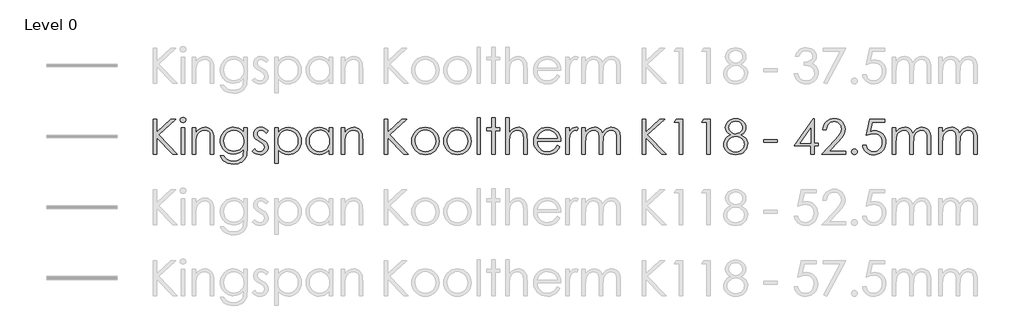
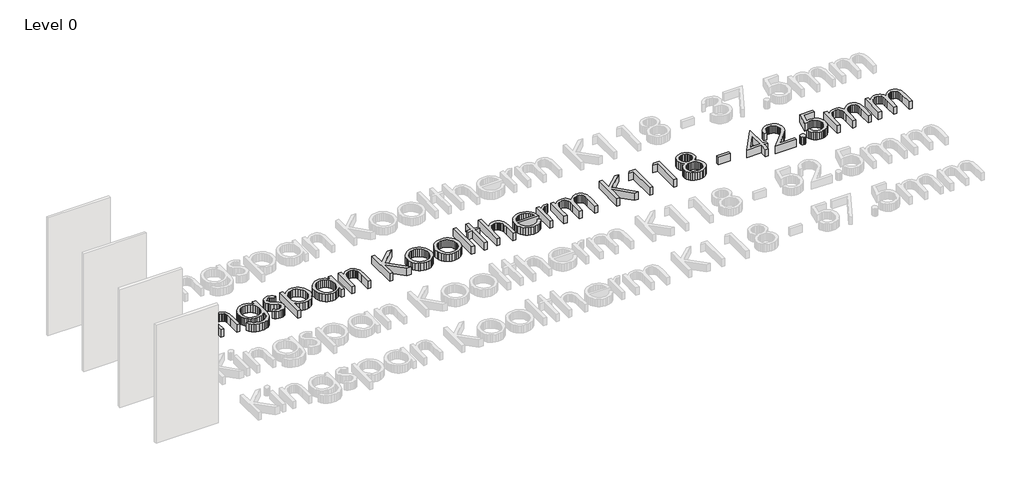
# One storey, part 7 of 8: 1 proxy.
"""IFC4 building model written with IfcOpenShell, lengths in millimetres."""

import ifcopenshell
import ifcopenshell.guid

model = None  # the IFC model being written
_history = None  # IfcOwnerHistory: only IFC2X3 demands one
_inside = {}  # id of a spatial element -> (the spatial element, [elements in it])
_under = {}  # id of a project, library or spatial element -> (it, [spatial elements below it])
_declared = {}  # id of a project -> (the project, [libraries it declares])
_typed = {}  # id of a type object -> (the type object, [elements of that type])
_made_of = {}  # id of a material, layer set ... -> (it, [elements and type objects made of it])


def new_model(schema):
    """Start an empty IFC model of exactly this schema.

    Asked for "IFC4X3", IfcOpenShell would pick the latest addendum, in which some entities
    have other attributes; the version numbers below select the first issue.
    IFC2X3 requires an IfcOwnerHistory on every rooted entity: one is made here for all.
    """
    global model, _history
    if schema == "IFC4X3":
        model = ifcopenshell.file(schema_version=(4, 3, 0, 0))
    else:
        model = ifcopenshell.file(schema=schema)
    _inside.clear()
    _under.clear()
    _declared.clear()
    _typed.clear()
    _made_of.clear()
    _history = None
    if model.schema == "IFC2X3":
        org = make("IfcOrganization", Name="unknown")
        user = make(
            "IfcPersonAndOrganization",
            ThePerson=make("IfcPerson", FamilyName="unknown"),
            TheOrganization=org,
        )
        app = make(
            "IfcApplication",
            ApplicationDeveloper=org,
            Version="unknown",
            ApplicationFullName="unknown",
            ApplicationIdentifier="unknown",
        )
        _history = make(
            "IfcOwnerHistory",
            OwningUser=user,
            OwningApplication=app,
            ChangeAction="ADDED",
            CreationDate=0,
        )
    return model


def make(cls, **values):
    """One entity of the class cls with the attributes given. An attribute that is None is left unset."""
    return model.create_entity(
        cls, **{name: value for name, value in values.items() if value is not None}
    )


def rooted(cls, **values):
    """An entity with a GlobalId (a new one), such as an element, a storey or a relation."""
    return make(cls, GlobalId=ifcopenshell.guid.new(), OwnerHistory=_history, **values)


def si_unit(unit_type, name, prefix=None):
    """IfcSIUnit, for example si_unit("LENGTHUNIT", "METRE", prefix="MILLI")."""
    return make("IfcSIUnit", UnitType=unit_type, Prefix=prefix, Name=name)


def assignment(units):
    """IfcUnitAssignment: the units of a project."""
    return None if units is None else make("IfcUnitAssignment", Units=units)


def point(xyz):
    """IfcCartesianPoint."""
    return None if xyz is None else make("IfcCartesianPoint", Coordinates=xyz)


def direction(xyz):
    """IfcDirection."""
    return None if xyz is None else make("IfcDirection", DirectionRatios=xyz)


def frame(location, z_axis=None, x_axis=None):
    """IfcAxis2Placement3D, a coordinate frame: its origin and axes. An axis left out is left unset."""
    return make(
        "IfcAxis2Placement3D",
        Location=point(location),
        Axis=direction(z_axis),
        RefDirection=direction(x_axis),
    )


def origin():
    """The frame at (0, 0, 0) with its axes left unset."""
    return frame((0.0, 0.0, 0.0))


def origin_with_axes():
    """The frame at (0, 0, 0) with the z axis (0, 0, 1) and the x axis (1, 0, 0) written out."""
    return frame((0.0, 0.0, 0.0), z_axis=(0.0, 0.0, 1.0), x_axis=(1.0, 0.0, 0.0))


def place(relative_to, where):
    """IfcLocalPlacement: puts the frame where relative to a parent placement (None: the world)."""
    return make(
        "IfcLocalPlacement", PlacementRelTo=relative_to, RelativePlacement=where
    )


def context(
    kind, dimensions, precision=None, world=None, true_north=None, identifier=None
):
    """IfcGeometricRepresentationContext, for example the 3D "Model" context."""
    return make(
        "IfcGeometricRepresentationContext",
        ContextIdentifier=identifier,
        ContextType=kind,
        CoordinateSpaceDimension=dimensions,
        Precision=precision,
        WorldCoordinateSystem=world,
        TrueNorth=true_north,
    )


def project(units=None, contexts=None):
    """IfcProject with its units and contexts."""
    return rooted(
        "IfcProject",
        Name="project",
        RepresentationContexts=contexts,
        UnitsInContext=assignment(units),
    )


def spatial(cls, under=None, at=None, **own):
    """A site, building, storey or space (cls), placed at a placement, below another one or the project."""
    s = rooted(cls, ObjectPlacement=at, **own)
    if under is not None:
        _under.setdefault(under.id(), (under, []))[1].append(s)
    return s


def polyline(points):
    """IfcPolyline through the points."""
    return make("IfcPolyline", Points=[point(p) for p in points])


def outline(outer, holes=None, kind="AREA"):
    """IfcArbitraryClosedProfileDef: a profile drawn as a closed curve; with holes, ...WithVoids."""
    if holes is None:
        return make("IfcArbitraryClosedProfileDef", ProfileType=kind, OuterCurve=outer)
    return make(
        "IfcArbitraryProfileDefWithVoids",
        ProfileType=kind,
        OuterCurve=outer,
        InnerCurves=holes,
    )


def extrude(swept, where, along, depth):
    """IfcExtrudedAreaSolid: the profile swept, set in the frame where, extruded along a direction by depth."""
    return make(
        "IfcExtrudedAreaSolid",
        SweptArea=swept,
        Position=where,
        ExtrudedDirection=direction(along),
        Depth=depth,
    )


def shape(context_of_items, identifier, shape_type, items):
    """IfcShapeRepresentation: the items that make up one representation, for example the "Body"."""
    return make(
        "IfcShapeRepresentation",
        ContextOfItems=context_of_items,
        RepresentationIdentifier=identifier,
        RepresentationType=shape_type,
        Items=items,
    )


def made_of(thing, what):
    """Note that an element or type object is made of a material, layer set ...; save() writes the relation."""
    if what is not None:
        _made_of.setdefault(what.id(), (what, []))[1].append(thing)
    return thing


def element(
    cls,
    number,
    at=None,
    inside=None,
    cuts=None,
    type_object=None,
    material=None,
    context=None,
    identifier="Body",
    shape_type=None,
    held_by="IfcProductDefinitionShape",
    body=None,
    shapes=None,
    **own,
):
    """One element of the class cls, such as IfcWall. Its Tag is "e" and its number.

    at: its placement. inside: the storey or other place that contains it. cuts: it is an
    opening in that element (IfcRelVoidsElement). A single representation is given by context,
    identifier, shape_type and body (its items); several are given by shapes. held_by: the class
    of the entity that holds the representations. save() writes the other relations.
    """
    e = rooted(cls, Tag="e%d" % number, ObjectPlacement=at, **own)
    if body is not None:
        shapes = [shape(context, identifier, shape_type, body)]
    if shapes is not None:
        e.Representation = make(held_by, Representations=shapes)
    if inside is not None:
        _inside.setdefault(inside.id(), (inside, []))[1].append(e)
    if cuts is not None:
        rooted(
            "IfcRelVoidsElement", RelatingBuildingElement=cuts, RelatedOpeningElement=e
        )
    if type_object is not None:
        _typed.setdefault(type_object.id(), (type_object, []))[1].append(e)
    return made_of(e, material)


def aggregate(whole, parts):
    """IfcRelAggregates: a whole, such as a stair, and the parts it consists of."""
    return rooted("IfcRelAggregates", RelatingObject=whole, RelatedObjects=parts)


def save(model, path):
    """Write the relations noted so far, then the file.

    IfcRelAggregates (storeys below a building ...), IfcRelContainedInSpatialStructure (elements
    in a storey), IfcRelDefinesByType, IfcRelAssociatesMaterial and IfcRelDeclares: one each for
    every whole, place, type object, material and project.
    """
    for whole, parts in _under.values():
        aggregate(whole, parts)
    for where, things in _inside.values():
        rooted(
            "IfcRelContainedInSpatialStructure",
            RelatedElements=things,
            RelatingStructure=where,
        )
    for kind, things in _typed.values():
        rooted("IfcRelDefinesByType", RelatedObjects=things, RelatingType=kind)
    for what, things in _made_of.values():
        rooted("IfcRelAssociatesMaterial", RelatedObjects=things, RelatingMaterial=what)
    for by, libraries in _declared.values():
        rooted("IfcRelDeclares", RelatingContext=by, RelatedDefinitions=libraries)
    model.write(path)


model = new_model("IFC4")

# Units and contexts
model_context = context("Model", 3, world=origin())
ifc_project = project(units=[si_unit("LENGTHUNIT", "METRE", prefix="MILLI")], contexts=[model_context])

# Site, building, storey
site = spatial("IfcSite", under=ifc_project)
building = spatial("IfcBuilding", under=site)
storey = spatial("IfcBuildingStorey", under=building, Name="Level 0", Elevation=0.0)

# Proxy
placement = place(None, origin())
element("IfcBuildingElementProxy", 1, Name="600mm KI_CenturyGothic", ObjectType="600mm KI_CenturyGothic", at=placement, inside=storey, context=model_context, shape_type="SweptSolid", body=[
    extrude(outline(polyline([(-3852.2663848, 4700.8965983), (-3792.944575, 4700.8965983), (-3792.944575, 4481.683973), (-3555.1938841, 4700.8965983), (-3471.6181051, 4700.8965983), (-3760.9664119, 4433.9484541), (-3441.9572002, 4107.6785001), (-3520.8984627, 4107.6785001), (-3792.944575, 4385.9039675), (-3792.944575, 4107.6785001), (-3852.2663848, 4107.6785001), (-3852.2663848, 4700.8965983)])), origin_with_axes(), (0.0, 0.0, 1.0), 150.0),
    extrude(outline(polyline([(-3348.1854852, 4730.5575033), (-3329.145347, 4727.2747208), (-3313.1176445, 4717.4263735), (-3302.226531, 4702.9821307), (-3298.5961598, 4685.911662), (-3302.226531, 4669.0729191), (-3313.1176445, 4654.7059183), (-3329.145347, 4644.857571), (-3348.1854852, 4641.5747885), (-3366.9938975, 4644.857571), (-3382.9443581, 4654.7059183), (-3393.8354717, 4669.0729191), (-3397.4658428, 4685.911662), (-3393.8354717, 4702.9821307), (-3382.9443581, 4717.4263735), (-3366.9938975, 4727.2747208), (-3348.1854852, 4730.5575033)])), origin_with_axes(), (0.0, 0.0, 1.0), 150.0),
    extrude(outline(polyline([(-3377.6919062, 4552.5920738), (-3318.3700964, 4552.5920738), (-3318.3700964, 4107.6785001), (-3377.6919062, 4107.6785001), (-3377.6919062, 4552.5920738)])), origin_with_axes(), (0.0, 0.0, 1.0), 150.0),
    extrude(outline(polyline([(-3189.8395084, 4552.5920738), (-3130.5176986, 4552.5920738), (-3130.5176986, 4473.4963274), (-3096.9946967, 4513.0055796), (-3060.0730495, 4540.696815), (-3019.7141359, 4557.0334853), (-2975.879335, 4562.4790421), (-2953.4357238, 4560.9004099), (-2932.2955704, 4556.1645135), (-2912.4588747, 4548.2713528), (-2893.9256368, 4537.2209277), (-2877.212412, 4523.4960006), (-2862.835756, 4507.5793333), (-2841.0921499, 4469.1707787), (-2833.6238199, 4444.7912914), (-2828.2892984, 4414.4448643), (-2824.0216812, 4335.8511905), (-2824.0216812, 4107.6785001), (-2883.343491, 4107.6785001), (-2883.343491, 4320.8662542), (-2883.343491, 4423.907002), (-2884.7290183, 4444.7043943), (-2889.8125035, 4462.7596977), (-2898.2849788, 4478.0729123), (-2910.1464442, 4490.644038), (-2924.7403432, 4500.4441091), (-2941.4101193, 4507.4441599), (-2980.977303, 4513.0442006), (-3005.3471351, 4510.8862539), (-3028.4038541, 4504.4124138), (-3050.1474602, 4493.6226803), (-3070.5779533, 4478.5170534), (-3088.6622225, 4460.2348518), (-3103.3671568, 4439.915394), (-3114.6927562, 4417.55868), (-3122.6390208, 4393.1647099), (-3128.5480292, 4346.0857475), (-3130.5176986, 4271.5858965), (-3130.5176986, 4107.6785001), (-3189.8395084, 4107.6785001), (-3189.8395084, 4552.5920738)])), origin_with_axes(), (0.0, 0.0, 1.0), 150.0),
    extrude(outline(polyline([(-2319.7862977, 4552.5920738), (-2260.4644879, 4552.5920738), (-2260.4644879, 4201.604699), (-2264.5196897, 4121.3503235), (-2269.588692, 4090.5500999), (-2276.6852953, 4065.9678526), (-2289.9371156, 4037.3545415), (-2307.2924139, 4012.2267729), (-2328.7511904, 3990.5845469), (-2354.3134448, 3972.4278634), (-2383.3226209, 3958.0656902), (-2415.122162, 3947.8069951), (-2449.7120682, 3941.651778), (-2487.0923395, 3939.6000389), (-2541.0458345, 3943.6166198), (-2589.206184, 3955.6663624), (-2630.260275, 3974.4940853), (-2662.8949946, 3998.8446068), (-2690.2000204, 4032.1938144), (-2715.2650299, 4078.0175952), (-2655.94322, 4078.0175952), (-2642.4355358, 4056.848476), (-2627.0933555, 4038.6048954), (-2609.9166791, 4023.2868532), (-2590.9055067, 4010.8943494), (-2569.7894914, 4001.3308318), (-2546.2982864, 3994.4997477), (-2492.1903075, 3989.0348805), (-2438.5071593, 3994.3645743), (-2415.083541, 4001.0266916), (-2393.93856, 4010.3536559), (-2359.6624492, 4034.3952097), (-2336.8567664, 4063.8823202), (-2329.3884364, 4082.5217658), (-2324.0539149, 4106.2302137), (-2319.7862977, 4168.8541165), (-2319.7862977, 4191.5632468), (-2354.757586, 4155.7809182), (-2396.6420279, 4129.3834852), (-2443.392712, 4113.1047464), (-2492.9627269, 4107.6785001), (-2522.4063889, 4109.5757553), (-2550.9521133, 4115.2675207), (-2578.5999001, 4124.7537964), (-2605.3497494, 4138.0345825), (-2630.1540674, 4154.5257366), (-2651.9652601, 4173.6431168), (-2670.7833277, 4195.3867228), (-2686.6082702, 4219.7565549), (-2699.1456025, 4246.0719183), (-2708.1008399, 4273.6521184), (-2713.4739824, 4302.4971553), (-2715.2650299, 4332.607029), (-2713.3967404, 4362.8955247), (-2707.7918722, 4392.1219437), (-2698.4504251, 4420.286286), (-2685.3723991, 4447.3885517), (-2668.9971079, 4472.5742517), (-2649.7638648, 4494.9888971), (-2627.67267, 4514.632488), (-2602.7235235, 4531.5050242), (-2575.9833294, 4545.056157), (-2548.5189922, 4554.7355376), (-2520.3305117, 4560.543166), (-2491.4178881, 4562.4790421), (-2444.5320306, 4557.5355579), (-2400.8903346, 4542.7051055), (-2359.6045177, 4516.1338782), (-2319.7862977, 4475.9680694), (-2319.7862977, 4552.5920738)]), holes=[polyline([(-2484.1571458, 4513.0442006), (-2529.0154023, 4507.0193293), (-2570.5908765, 4488.9447153), (-2606.2187212, 4460.2300242), (-2633.2340897, 4422.2849212), (-2650.2659375, 4378.0059792), (-2655.94322, 4330.2897708), (-2653.0080263, 4294.3770964), (-2644.2024452, 4261.7182387), (-2629.5264766, 4232.3131977), (-2608.9801206, 4206.1619734), (-2583.7606272, 4184.703197), (-2555.0652466, 4169.3754996), (-2522.8939786, 4160.1788811), (-2487.2468234, 4157.1133416), (-2451.3244937, 4160.154743), (-2419.1001219, 4169.2789472), (-2390.573708, 4184.4859541), (-2365.7452519, 4205.7757637), (-2345.6382095, 4232.0187128), (-2331.2760363, 4262.0851379), (-2322.6587323, 4295.975039), (-2319.7862977, 4333.6884162), (-2325.0773706, 4382.3894593), (-2340.9505892, 4425.6063246), (-2366.4983608, 4461.8327944), (-2400.8130926, 4489.5626508), (-2440.9982119, 4507.1738131), (-2484.1571458, 4513.0442006)])]), origin_with_axes(), (0.0, 0.0, 1.0), 150.0),
    extrude(outline(polyline([(-1904.5336289, 4501.3034257), (-1940.9918246, 4463.609359), (-1962.9575012, 4485.2371022), (-1984.6721416, 4500.6854902), (-2006.1357456, 4509.954523), (-2027.3483133, 4513.0442006), (-2052.181597, 4508.3710632), (-2073.2300256, 4494.3516511), (-2087.5970264, 4474.1142629), (-2092.3860267, 4450.787197), (-2088.4466878, 4429.2366958), (-2076.628671, 4408.7675817), (-2052.0657341, 4386.599145), (-2010.2006027, 4360.877579), (-1958.3326401, 4328.0111336), (-1939.8428507, 4312.1861912), (-1926.315856, 4296.7667689), (-1909.9791857, 4264.0934284), (-1904.5336289, 4227.5579908), (-1906.9474396, 4201.4115941), (-1914.1888714, 4177.3507299), (-1926.2579245, 4155.375398), (-1943.1545989, 4135.4855985), (-1963.6719892, 4118.9944443), (-1986.6031901, 4107.2150485), (-2011.9482016, 4100.147411), (-2039.7070237, 4097.7915318), (-2077.4397114, 4101.6729393), (-2113.3958344, 4113.3171617), (-2145.4512394, 4131.7972958), (-2171.4817731, 4156.1864383), (-2135.7959969, 4196.6612148), (-2114.0041146, 4175.0334717), (-2091.5749863, 4159.5850837), (-2068.5086121, 4150.3160509), (-2044.8049918, 4147.2263733), (-2013.637869, 4152.8650349), (-1987.4914724, 4169.7810198), (-1969.7644472, 4194.3439566), (-1963.8554388, 4222.9234744), (-1967.7561567, 4246.7139919), (-1979.4583106, 4267.7237995), (-2005.0253927, 4289.4287846), (-2050.2119275, 4316.2317378), (-2099.762632, 4346.8967879), (-2117.441381, 4362.0555186), (-2130.3890611, 4377.0983864), (-2146.3781427, 4409.2310334), (-2151.7078365, 4445.689229), (-2149.5305794, 4469.7356104), (-2142.9988078, 4491.6674937), (-2132.1125219, 4511.4848789), (-2116.8717217, 4529.187766), (-2098.309518, 4543.7526993), (-2077.4590218, 4554.1562231), (-2054.3202332, 4560.3983373), (-2028.8931521, 4562.4790421), (-1997.9481, 4558.6555661), (-1966.9064954, 4547.185138), (-1935.7683384, 4528.0677579), (-1904.5336289, 4501.3034257)])), origin_with_axes(), (0.0, 0.0, 1.0), 150.0),
    extrude(outline(polyline([(-1795.7769776, 4552.5920738), (-1736.4551678, 4552.5920738), (-1736.4551678, 4471.4880369), (-1700.9238754, 4511.7310876), (-1660.4490989, 4540.0788795), (-1614.9922173, 4556.8790014), (-1564.5146096, 4562.4790421), (-1520.0618732, 4558.2403906), (-1478.9305402, 4545.5244363), (-1441.1206107, 4524.331179), (-1406.6320845, 4494.6606189), (-1377.9077381, 4459.0231189), (-1357.3903478, 4419.929042), (-1345.0799137, 4377.3783884), (-1340.9764356, 4331.371158), (-1345.0412927, 4284.4708176), (-1357.235864, 4241.2491246), (-1377.5601494, 4201.706079), (-1406.014149, 4165.8416808), (-1440.2130179, 4136.0697406), (-1477.7719111, 4114.8040691), (-1518.6908288, 4102.0446661), (-1562.9697708, 4097.7915318), (-1612.6170277, 4103.256399), (-1658.0545988, 4119.6510008), (-1699.3211052, 4146.8980951), (-1736.4551678, 4184.92044), (-1736.4551678, 3949.4870072), (-1795.7769776, 3949.4870072), (-1795.7769776, 4552.5920738)]), holes=[polyline([(-1568.5311905, 4513.0442006), (-1602.5852307, 4509.7469353), (-1633.8392507, 4499.8551393), (-1662.2932503, 4483.3688128), (-1687.9472295, 4460.2879556), (-1709.1694525, 4432.3022353), (-1724.3281832, 4401.1013192), (-1733.4234216, 4366.6852074), (-1736.4551678, 4329.0538998), (-1731.048232, 4280.1983728), (-1714.8274246, 4236.5180558), (-1688.5265441, 4199.6736505), (-1652.8793888, 4171.3258586), (-1611.4390881, 4153.2512446), (-1567.7587711, 4147.2263733), (-1525.0632888, 4153.2898656), (-1485.0326535, 4171.4803424), (-1450.2544701, 4200.5812433), (-1423.3163435, 4239.3760076), (-1406.05277, 4284.0411593), (-1400.2982454, 4330.7532225), (-1405.9948385, 4377.6970114), (-1423.0846177, 4422.1304373), (-1449.8103289, 4460.4810605), (-1484.414718, 4489.1764411), (-1524.7157001, 4507.0772607), (-1568.5311905, 4513.0442006)])]), origin_with_axes(), (0.0, 0.0, 1.0), 150.0),
    extrude(outline(polyline([(-807.0801472, 4552.5920738), (-807.0801472, 4107.6785001), (-866.401957, 4107.6785001), (-866.401957, 4183.5300851), (-903.4780882, 4145.6815345), (-944.8797679, 4118.9558233), (-990.4525125, 4103.0826047), (-1040.0418379, 4097.7915318), (-1084.3159523, 4102.0446661), (-1125.2203871, 4114.8040691), (-1162.7551422, 4136.0697406), (-1196.9202178, 4165.8416808), (-1225.340424, 4201.706079), (-1245.6405713, 4241.2491246), (-1257.8206597, 4284.4708176), (-1261.8806892, 4331.371158), (-1257.7820388, 4377.3783884), (-1245.4860875, 4419.929042), (-1224.9928353, 4459.0231189), (-1196.3022822, 4494.6606189), (-1161.8475494, 4524.331179), (-1124.061758, 4545.5244363), (-1082.9449079, 4558.2403906), (-1038.4969991, 4562.4790421), (-987.7490446, 4556.8790014), (-942.0990581, 4540.0788795), (-921.2051134, 4527.3918909), (-901.6242816, 4511.7310876), (-866.401957, 4471.4880369), (-866.401957, 4552.5920738), (-807.0801472, 4552.5920738)]), holes=[polyline([(-1034.3259343, 4513.0442006), (-1078.1414247, 4507.0772607), (-1118.4424068, 4489.1764411), (-1153.0467959, 4460.4810605), (-1179.7725071, 4422.1304373), (-1196.8622863, 4377.6970114), (-1202.5588794, 4330.7532225), (-1196.8043548, 4284.0411593), (-1179.5407813, 4239.3760076), (-1152.6026548, 4200.5812433), (-1117.8244713, 4171.4803424), (-1077.6779731, 4153.2898656), (-1034.6349021, 4147.2263733), (-991.0125165, 4153.2512446), (-949.7460102, 4171.3258586), (-914.2726493, 4199.6736505), (-888.0297002, 4236.5180558), (-871.8088928, 4280.1983728), (-866.401957, 4329.0538998), (-869.4337032, 4366.6852074), (-878.5289416, 4401.1013192), (-893.6876723, 4432.3022353), (-914.9098953, 4460.2879556), (-940.5638746, 4483.3688128), (-969.0178742, 4499.8551393), (-1000.2718941, 4509.7469353), (-1034.3259343, 4513.0442006)])]), origin_with_axes(), (0.0, 0.0, 1.0), 150.0),
    extrude(outline(polyline([(-668.662591, 4552.5920738), (-609.3407811, 4552.5920738), (-609.3407811, 4473.4963274), (-575.8177792, 4513.0055796), (-538.896132, 4540.696815), (-498.5372184, 4557.0334853), (-454.7024175, 4562.4790421), (-432.2588064, 4560.9004099), (-411.1186529, 4556.1645135), (-391.2819572, 4548.2713528), (-372.7487193, 4537.2209277), (-356.0354946, 4523.4960006), (-341.6588385, 4507.5793333), (-319.9152324, 4469.1707787), (-312.4469024, 4444.7912914), (-307.1123809, 4414.4448643), (-302.8447637, 4335.8511905), (-302.8447637, 4107.6785001), (-362.1665735, 4107.6785001), (-362.1665735, 4320.8662542), (-362.1665735, 4423.907002), (-363.5521008, 4444.7043943), (-368.635586, 4462.7596977), (-377.1080613, 4478.0729123), (-388.9695267, 4490.644038), (-403.5634257, 4500.4441091), (-420.2332018, 4507.4441599), (-459.8003855, 4513.0442006), (-484.1702176, 4510.8862539), (-507.2269366, 4504.4124138), (-528.9705427, 4493.6226803), (-549.4010358, 4478.5170534), (-567.485305, 4460.2348518), (-582.1902393, 4439.915394), (-593.5158387, 4417.55868), (-601.4621033, 4393.1647099), (-607.3711117, 4346.0857475), (-609.3407811, 4271.5858965), (-609.3407811, 4107.6785001), (-668.662591, 4107.6785001), (-668.662591, 4552.5920738)])), origin_with_axes(), (0.0, 0.0, 1.0), 150.0),
    extrude(outline(polyline([(62.9730635, 4700.8965983), (122.2948734, 4700.8965983), (122.2948734, 4481.683973), (360.0455643, 4700.8965983), (443.6213432, 4700.8965983), (154.2730365, 4433.9484541), (473.2822481, 4107.6785001), (394.3409856, 4107.6785001), (122.2948734, 4385.9039675), (122.2948734, 4107.6785001), (62.9730635, 4107.6785001), (62.9730635, 4700.8965983)])), origin_with_axes(), (0.0, 0.0, 1.0), 150.0),
    extrude(outline(polyline([(760.1588128, 4562.4790421), (809.4681362, 4557.8541809), (854.3553585, 4543.9795975), (894.8204798, 4520.8552917), (930.8635, 4488.4812637), (957.7630055, 4453.2492839), (976.9769381, 4414.908316), (988.5052976, 4373.45836), (992.3480841, 4328.8994159), (988.283227, 4284.0846079), (976.0886558, 4242.1760279), (955.7643703, 4203.1736759), (927.3103707, 4167.0775519), (892.4742558, 4136.7649181), (853.0036246, 4115.1130368), (808.8984769, 4102.1219081), (760.1588128, 4097.7915318), (711.2839754, 4102.1219081), (667.0822753, 4115.1130368), (627.5537126, 4136.7649181), (592.6982872, 4167.0775519), (564.2442876, 4203.1736759), (543.9200022, 4242.1760279), (531.7254309, 4284.0846079), (527.6605738, 4328.8994159), (531.5033603, 4373.2652551), (543.0317198, 4414.5993482), (562.2456524, 4452.9016951), (589.145158, 4488.1722959), (625.2074886, 4520.6814974), (665.7305413, 4543.9023555), (710.7143161, 4557.8348705), (760.1588128, 4562.4790421)]), holes=[polyline([(760.004329, 4513.0442006), (725.7282181, 4509.6696933), (693.9624704, 4499.5461716), (664.7070856, 4482.6736353), (637.962064, 4459.0520846), (615.6584538, 4430.6415336), (599.7273037, 4399.4019965), (590.1686137, 4365.3334734), (586.9823836, 4328.4359643), (592.7948396, 4280.7004454), (610.2322075, 4236.3635719), (637.5758543, 4198.5729529), (673.1071466, 4170.4761972), (714.6439998, 4153.0388293), (760.004329, 4147.2263733), (805.3646581, 4153.0388293), (846.9015113, 4170.4761972), (882.4328037, 4198.5729529), (909.7764504, 4236.3635719), (927.2138183, 4280.7004454), (933.0262743, 4328.4359643), (929.8255614, 4365.3334734), (920.2234227, 4399.4019965), (904.2198583, 4430.6415336), (881.8148681, 4459.0520846), (854.9974321, 4482.6736353), (825.7565303, 4499.5461716), (794.0921625, 4509.6696933), (760.004329, 4513.0442006)])]), origin_with_axes(), (0.0, 0.0, 1.0), 150.0),
    extrude(outline(polyline([(1303.9420695, 4562.4790421), (1353.2513929, 4557.8541809), (1398.1386152, 4543.9795975), (1438.6037365, 4520.8552917), (1474.6467567, 4488.4812637), (1501.5462622, 4453.2492839), (1520.7601948, 4414.908316), (1532.2885543, 4373.45836), (1536.1313408, 4328.8994159), (1532.0664837, 4284.0846079), (1519.8719125, 4242.1760279), (1499.547627, 4203.1736759), (1471.0936274, 4167.0775519), (1436.2575126, 4136.7649181), (1396.7868813, 4115.1130368), (1352.6817336, 4102.1219081), (1303.9420695, 4097.7915318), (1255.0672321, 4102.1219081), (1210.865532, 4115.1130368), (1171.3369693, 4136.7649181), (1136.4815439, 4167.0775519), (1108.0275443, 4203.1736759), (1087.7032589, 4242.1760279), (1075.5086876, 4284.0846079), (1071.4438305, 4328.8994159), (1075.286617, 4373.2652551), (1086.8149766, 4414.5993482), (1106.0289091, 4452.9016951), (1132.9284147, 4488.1722959), (1168.9907453, 4520.6814974), (1209.5137981, 4543.9023555), (1254.4975728, 4557.8348705), (1303.9420695, 4562.4790421)]), holes=[polyline([(1303.7875857, 4513.0442006), (1269.5114748, 4509.6696933), (1237.7457271, 4499.5461716), (1208.4903423, 4482.6736353), (1181.7453207, 4459.0520846), (1159.4417105, 4430.6415336), (1143.5105604, 4399.4019965), (1133.9518704, 4365.3334734), (1130.7656404, 4328.4359643), (1136.5780963, 4280.7004454), (1154.0154643, 4236.3635719), (1181.359111, 4198.5729529), (1216.8904033, 4170.4761972), (1258.4272565, 4153.0388293), (1303.7875857, 4147.2263733), (1349.1479149, 4153.0388293), (1390.684768, 4170.4761972), (1426.2160604, 4198.5729529), (1453.5597071, 4236.3635719), (1470.997075, 4280.7004454), (1476.809531, 4328.4359643), (1473.6088181, 4365.3334734), (1464.0066795, 4399.4019965), (1448.003115, 4430.6415336), (1425.5981249, 4459.0520846), (1398.7806889, 4482.6736353), (1369.539787, 4499.5461716), (1337.8754193, 4509.6696933), (1303.7875857, 4513.0442006)])]), origin_with_axes(), (0.0, 0.0, 1.0), 150.0),
    extrude(outline(polyline([(1635.0010238, 4720.6705349), (1694.3228337, 4720.6705349), (1694.3228337, 4107.6785001), (1635.0010238, 4107.6785001), (1635.0010238, 4720.6705349)])), origin_with_axes(), (0.0, 0.0, 1.0), 150.0),
    extrude(outline(polyline([(1882.1752314, 4720.6705349), (1941.4970413, 4720.6705349), (1941.4970413, 4552.5920738), (2020.5927877, 4552.5920738), (2020.5927877, 4503.1572323), (1941.4970413, 4503.1572323), (1941.4970413, 4107.6785001), (1882.1752314, 4107.6785001), (1882.1752314, 4503.1572323), (1803.079485, 4503.1572323), (1803.079485, 4552.5920738), (1882.1752314, 4552.5920738), (1882.1752314, 4720.6705349)])), origin_with_axes(), (0.0, 0.0, 1.0), 150.0),
    extrude(outline(polyline([(2119.4624707, 4720.6705349), (2178.7842806, 4720.6705349), (2178.7842806, 4471.9514886), (2212.5583188, 4511.6538456), (2249.6151394, 4539.9243956), (2289.9161216, 4556.8403805), (2333.4226442, 4562.4790421), (2355.8662553, 4560.9004099), (2377.0064088, 4556.1645135), (2396.8431044, 4548.2713528), (2415.3763424, 4537.2209277), (2432.0895671, 4523.5104834), (2446.4662232, 4507.6372648), (2468.2098293, 4469.4025045), (2475.6781593, 4445.0954316), (2481.0126808, 4414.7345216), (2485.280298, 4335.8511905), (2485.280298, 4107.6785001), (2425.9584882, 4107.6785001), (2425.9584882, 4320.8662542), (2424.5681332, 4385.247411), (2420.3970685, 4423.907002), (2406.879729, 4462.7596977), (2397.1665551, 4478.0729123), (2385.4837117, 4490.644038), (2371.840854, 4500.4441091), (2356.2476374, 4507.4441599), (2319.2101273, 4513.0442006), (2296.3416854, 4510.8862539), (2274.6994594, 4504.4124138), (2254.2834492, 4493.6226803), (2235.0936547, 4478.5170534), (2218.1052556, 4460.2348518), (2204.2934312, 4439.915394), (2193.6581816, 4417.55868), (2186.1995068, 4393.1647099), (2180.6380871, 4346.3174733), (2178.7842806, 4271.5858965), (2178.7842806, 4107.6785001), (2119.4624707, 4107.6785001), (2119.4624707, 4720.6705349)])), origin_with_axes(), (0.0, 0.0, 1.0), 150.0),
    extrude(outline(polyline([(2991.0605203, 4255.9830247), (3038.950523, 4230.8021523), (3013.3255094, 4188.9177104), (2984.0315038, 4155.9547125), (2950.952643, 4130.8703926), (2913.9730643, 4112.6219843), (2872.4941426, 4101.4991449), (2825.9172528, 4097.7915318), (2774.4258447, 4102.2232881), (2728.8627554, 4115.518557), (2689.227985, 4137.6773385), (2655.5215335, 4168.6996326), (2628.6220279, 4205.3026569), (2609.4080954, 4244.2036288), (2597.8797358, 4285.4025485), (2594.0369493, 4328.8994159), (2597.3197318, 4369.7797126), (2607.1680791, 4408.381372), (2623.5819913, 4444.7043943), (2646.5614684, 4478.7487793), (2682.7493173, 4515.3807692), (2724.5758277, 4541.5464764), (2772.0409998, 4557.2459007), (2825.1448334, 4562.4790421), (2879.7935059, 4557.1107273), (2928.6490329, 4541.0057828), (2971.7114143, 4514.1642087), (3008.9806503, 4476.5860049), (3030.4539096, 4444.414737), (3045.9022976, 4408.458614), (3055.3258143, 4368.7176359), (3058.7244596, 4325.1918028), (2653.3587591, 4325.1918028), (2657.095338, 4287.9370497), (2666.6057518, 4254.1871496), (2681.8900007, 4223.9421025), (2702.9480845, 4197.2019084), (2728.3124066, 4175.3376118), (2756.5153699, 4159.7202571), (2787.5569744, 4150.3498443), (2821.4372203, 4147.2263733), (2854.9602222, 4150.238809), (2887.5563208, 4159.2761159), (2917.2944677, 4173.3148385), (2942.2436143, 4191.331521), (2965.725164, 4217.4972281), (2991.0605203, 4255.9830247)]), holes=[polyline([(2999.4026498, 4374.6266443), (2984.9777175, 4417.1483322), (2965.1844704, 4450.1692615), (2939.0766947, 4475.6977226), (2905.7081767, 4495.742006), (2867.7630738, 4508.7186519), (2827.9255433, 4513.0442006), (2795.503239, 4510.3310774), (2765.4368139, 4502.191708), (2737.726268, 4488.6260923), (2712.3716012, 4469.6342304), (2695.8321708, 4451.820308), (2681.4362043, 4430.0477362), (2669.1837016, 4404.316515), (2659.0746627, 4374.6266443), (2999.4026498, 4374.6266443)])]), origin_with_axes(), (0.0, 0.0, 1.0), 150.0),
    extrude(outline(polyline([(3137.820206, 4552.5920738), (3197.1420159, 4552.5920738), (3197.1420159, 4488.1722959), (3222.6897875, 4521.2125357), (3249.589293, 4544.3271862), (3277.7632906, 4557.9410781), (3307.1345382, 4562.4790421), (3330.4616041, 4558.694187), (3355.3335087, 4547.3396219), (3325.8270877, 4505.3200066), (3297.2475699, 4513.0442006), (3270.8308265, 4507.0965712), (3245.3409863, 4489.2536831), (3223.2884125, 4458.8976007), (3207.183468, 4415.4103886), (3199.6523789, 4357.2858288), (3197.1420159, 4259.8451217), (3197.1420159, 4107.6785001), (3137.820206, 4107.6785001), (3137.820206, 4552.5920738)])), origin_with_axes(), (0.0, 0.0, 1.0), 150.0),
    extrude(outline(polyline([(3414.6553185, 4552.5920738), (3473.9771284, 4552.5920738), (3473.9771284, 4476.4315211), (3503.5607913, 4512.9283377), (3533.9168737, 4538.0705891), (3577.3268439, 4556.3769288), (3622.8995884, 4562.4790421), (3653.7384329, 4559.331433), (3682.9165757, 4549.8886059), (3708.6767627, 4535.2126373), (3729.2617397, 4516.365604), (3746.0425511, 4490.9336953), (3760.3902414, 4456.5031006), (3775.16759, 4480.9018983), (3791.6925376, 4502.191708), (3809.965084, 4520.3725296), (3829.9852293, 4535.4443631), (3851.2798666, 4547.2720352), (3873.375889, 4555.7203723), (3896.2732965, 4560.7893747), (3919.9720892, 4562.4790421), (3962.3006723, 4556.6665861), (3981.4952943, 4549.4010161), (3999.3768034, 4539.2292182), (4015.4914031, 4526.46016), (4029.385297, 4511.4028093), (4050.5109676, 4474.4232306), (4057.8103309, 4451.0478886), (4063.0241619, 4422.4780261), (4067.1952266, 4349.7547397), (4067.1952266, 4107.6785001), (4007.8734168, 4107.6785001), (4007.8734168, 4353.3078689), (4005.4209852, 4414.4255538), (3998.0636904, 4452.8727294), (3984.7587663, 4477.3391139), (3964.4634466, 4496.5144254), (3938.3942919, 4508.9117568), (3907.7678627, 4513.0442006), (3888.1194443, 4511.4945341), (3869.3399976, 4506.8455349), (3834.3880198, 4488.2495379), (3805.6540182, 4459.3031209), (3785.8800816, 4422.0531954), (3779.1889985, 4397.8957787), (3774.4096535, 4366.8252084), (3770.5861775, 4283.9446069), (3770.5861775, 4107.6785001), (3711.2643677, 4107.6785001), (3711.2643677, 4338.0139648), (3708.850557, 4406.469634), (3701.6091252, 4448.7016647), (3688.3621325, 4474.9446137), (3667.9316394, 4495.4330383), (3641.6114484, 4508.64141), (3610.6953619, 4513.0442006), (3573.7544042, 4507.0000188), (3539.2465676, 4488.8674734), (3510.2808401, 4460.500371), (3489.9662099, 4423.7525181), (3477.9743988, 4371.9231764), (3473.9771284, 4298.3116077), (3473.9771284, 4107.6785001), (3414.6553185, 4107.6785001), (3414.6553185, 4552.5920738)])), origin_with_axes(), (0.0, 0.0, 1.0), 150.0),
    extrude(outline(polyline([(4433.0130538, 4700.8965983), (4492.3348637, 4700.8965983), (4492.3348637, 4481.683973), (4730.0855546, 4700.8965983), (4813.6613335, 4700.8965983), (4524.3130268, 4433.9484541), (4843.3222385, 4107.6785001), (4764.3809759, 4107.6785001), (4492.3348637, 4385.9039675), (4492.3348637, 4107.6785001), (4433.0130538, 4107.6785001), (4433.0130538, 4700.8965983)])), origin_with_axes(), (0.0, 0.0, 1.0), 150.0),
    extrude(outline(polyline([(5010.6282802, 4700.8965983), (5125.1008351, 4700.8965983), (5125.1008351, 4107.6785001), (5065.7790253, 4107.6785001), (5065.7790253, 4651.4617568), (4976.7963106, 4651.4617568), (5010.6282802, 4700.8965983)])), origin_with_axes(), (0.0, 0.0, 1.0), 150.0),
    extrude(outline(polyline([(5475.3157905, 4700.8965983), (5589.7883454, 4700.8965983), (5589.7883454, 4107.6785001), (5530.4665356, 4107.6785001), (5530.4665356, 4651.4617568), (5441.4838208, 4651.4617568), (5475.3157905, 4700.8965983)])), origin_with_axes(), (0.0, 0.0, 1.0), 150.0),
    extrude(outline(polyline([(6107.7727942, 4431.7856798), (6159.8724826, 4400.3868313), (6179.6946955, 4383.1522234), (6195.365154, 4364.8941599), (6207.2604128, 4345.4774673), (6215.7570261, 4324.7669721), (6220.8549942, 4302.7626745), (6222.5543169, 4279.4645744), (6219.734986, 4246.7815786), (6211.2769936, 4216.0875627), (6197.1803396, 4187.3825268), (6177.445024, 4160.6664709), (6146.7510081, 4133.158685), (6110.1286734, 4113.5102666), (6067.5780197, 4101.7212155), (6019.0990472, 4097.7915318), (5972.4352603, 4101.243281), (5931.7770342, 4111.5985286), (5897.1243689, 4128.8572745), (5868.4772645, 4153.0195188), (5846.0384809, 4181.3335174), (5830.0107784, 4211.0475261), (5820.3941569, 4242.161545), (5817.1886164, 4274.6755741), (5818.9024219, 4298.4033325), (5824.0438386, 4320.9241856), (5832.6128663, 4342.2381334), (5844.609505, 4362.3451759), (5860.5068618, 4381.3128997), (5880.7780434, 4399.2088917), (5905.4230498, 4416.0331517), (5934.4418811, 4431.7856798), (5896.0719475, 4456.7348264), (5868.7089903, 4487.0909088), (5852.3143886, 4521.3477091), (5846.8495213, 4557.9990096), (5852.6426668, 4595.7123867), (5870.0221033, 4632.5374816), (5897.6360968, 4665.0563382), (5934.1329134, 4689.8510009), (5976.7318432, 4705.5504252), (6022.6521765, 4710.7835666), (6067.3945701, 4705.5118042), (6108.6224555, 4689.6965171), (6143.8254696, 4664.8246124), (6170.4932494, 4632.3829977), (6187.2933713, 4595.2489351), (6192.8934119, 4556.2996869), (6187.5830286, 4518.7601041), (6171.6518785, 4485.54607), (6145.0613407, 4456.5803425), (6107.7727942, 4431.7856798)]), holes=[polyline([(6022.9611442, 4404.2875492), (5993.0926516, 4401.7771862), (5965.7441773, 4394.246097), (5940.9157212, 4381.6942818), (5918.6072834, 4364.1217405), (5900.1899084, 4343.2181405), (5887.0346405, 4320.6731493), (5879.1414798, 4296.4867669), (5876.5104262, 4270.6589932), (5881.0097692, 4238.5456567), (5894.5077982, 4208.3247478), (5916.0776099, 4182.3907665), (5944.7923011, 4163.1382129), (5979.6670369, 4151.2043332), (6019.7169827, 4147.2263733), (6050.9372093, 4149.6450116), (6078.7877563, 4156.9009263), (6103.2686236, 4168.9941175), (6124.3798113, 4185.9245852), (6141.3778657, 4206.0895591), (6153.5193331, 4227.886269), (6160.8042135, 4251.3147149), (6163.232507, 4276.3748968), (6160.6642125, 4300.7061079), (6152.959329, 4323.646964), (6140.1178565, 4345.1974652), (6122.139795, 4365.3576115), (6100.5313623, 4382.3894593), (6076.7987763, 4394.5550648), (6050.9420369, 4401.8544281), (6022.9611442, 4404.2875492)]), polyline([(6019.7169827, 4661.3487251), (5996.2112949, 4659.4900909), (5974.8201052, 4653.9141884), (5955.5434136, 4644.6210175), (5938.3812201, 4631.6105783), (5924.2893937, 4616.0221893), (5914.2238034, 4598.9951692), (5908.1844492, 4580.5295179), (5906.1713311, 4560.6252355), (5908.3389331, 4540.7161255), (5914.8417389, 4521.7725398), (5925.6797486, 4503.7944783), (5940.8529621, 4486.781941), (5958.9130932, 4472.3183878), (5978.4118554, 4461.9872783), (5999.3492487, 4455.7886126), (6021.7252732, 4453.7223907), (6050.4399643, 4457.4686248), (6077.5711957, 4468.7073271), (6101.0334349, 4486.4536628), (6118.7411497, 4509.7227972), (6129.863989, 4535.7726414), (6133.5716021, 4561.8611066), (6131.7467613, 4580.0322729), (6126.2722388, 4597.4696408), (6117.1480347, 4614.1732103), (6104.3741488, 4630.1429814), (6088.134031, 4643.7954943), (6068.6111307, 4653.5472892), (6045.8054479, 4659.3983661), (6019.7169827, 4661.3487251)])]), origin_with_axes(), (0.0, 0.0, 1.0), 150.0),
    extrude(outline(polyline([(6499.3894294, 4354.8527077), (6726.7897004, 4354.8527077), (6726.7897004, 4305.4178662), (6499.3894294, 4305.4178662), (6499.3894294, 4354.8527077)])), origin_with_axes(), (0.0, 0.0, 1.0), 150.0),
    extrude(outline(polyline([(7337.6189609, 4710.7835666), (7349.6687035, 4710.7835666), (7349.6687035, 4295.5308979), (7418.8774816, 4295.5308979), (7418.8774816, 4246.0960564), (7349.6687035, 4246.0960564), (7349.6687035, 4107.6785001), (7290.3468937, 4107.6785001), (7290.3468937, 4246.0960564), (7013.5117812, 4246.0960564), (7337.6189609, 4710.7835666)]), holes=[polyline([(7290.3468937, 4295.5308979), (7290.3468937, 4542.7051055), (7118.0973678, 4295.5308979), (7290.3468937, 4295.5308979)])]), origin_with_axes(), (0.0, 0.0, 1.0), 150.0),
    extrude(outline(polyline([(7557.2950379, 4522.9311689), (7497.9732281, 4522.9311689), (7502.4580882, 4562.1893848), (7513.5954104, 4597.7786086), (7531.3851947, 4629.6988403), (7555.827441, 4657.9500798), (7585.2228268, 4681.0647303), (7617.8720292, 4697.5751949), (7653.7750484, 4707.4814737), (7692.9318843, 4710.7835666), (7731.403198, 4707.4863013), (7766.0220699, 4697.5945054), (7796.7885001, 4681.1081789), (7823.7024885, 4658.0273217), (7845.5667851, 4630.466432), (7861.1841398, 4600.540008), (7870.5545527, 4568.2480495), (7873.6780236, 4533.5905566), (7867.5952208, 4484.7929611), (7849.3468125, 4439.1236641), (7813.5644839, 4387.236391), (7754.8799201, 4319.784867), (7602.095363, 4157.1133416), (7883.5649919, 4157.1133416), (7883.5649919, 4107.6785001), (7478.1992914, 4107.6785001), (7704.2092075, 4348.3643848), (7760.9434124, 4413.8848603), (7793.6553739, 4459.9789879), (7809.1810038, 4497.3447763), (7814.3562138, 4536.6802342), (7812.1065423, 4561.2866196), (7805.3575278, 4584.1260957), (7794.1091703, 4605.1986625), (7778.3614698, 4624.5043198), (7759.3502973, 4640.6237471), (7738.311524, 4652.1376238), (7715.2451497, 4659.0459498), (7690.1511745, 4661.3487251), (7663.8165006, 4659.0749155), (7639.8087401, 4652.2534867), (7618.1278932, 4640.8844387), (7598.7739596, 4624.9677714), (7582.5386694, 4604.9476262), (7570.2137523, 4581.268144), (7561.7992085, 4553.9293249), (7557.2950379, 4522.9311689)])), origin_with_axes(), (0.0, 0.0, 1.0), 150.0),
    extrude(outline(polyline([(8031.8695165, 4196.6612148), (8050.8903442, 4193.0694646), (8066.8601152, 4182.294214), (8077.6932973, 4166.3437534), (8081.304358, 4147.2263733), (8077.6932973, 4128.3020981), (8066.8601152, 4112.3130165), (8050.8903442, 4101.421903), (8031.8695165, 4097.7915318), (8012.8486888, 4101.421903), (7996.8789177, 4112.3130165), (7986.0457356, 4128.3020981), (7982.4346749, 4147.2263733), (7986.0457356, 4166.3437534), (7996.8789177, 4182.294214), (8012.8486888, 4193.0694646), (8031.8695165, 4196.6612148)])), origin_with_axes(), (0.0, 0.0, 1.0), 150.0),
    extrude(outline(polyline([(8545.9918683, 4700.8965983), (8545.9918683, 4651.4617568), (8338.6745016, 4651.4617568), (8304.2245965, 4490.4895541), (8341.8028002, 4499.9903127), (8375.441665, 4503.1572323), (8415.0281592, 4499.7344488), (8450.9842822, 4489.4660984), (8483.3100341, 4472.3521811), (8512.0054147, 4448.3926969), (8535.5255854, 4419.0842083), (8552.3257073, 4385.923278), (8562.4057805, 4348.909906), (8565.7658049, 4308.0440921), (8564.0423441, 4279.0783647), (8558.8719617, 4251.3485083), (8550.2546578, 4224.8545229), (8538.1904323, 4199.5964086), (8523.1861855, 4176.3948609), (8505.7488176, 4156.0705754), (8485.8783286, 4138.6235523), (8463.5747184, 4124.0537914), (8439.1421273, 4112.5640528), (8412.8846954, 4104.3570967), (8384.8024226, 4099.432923), (8354.895309, 4097.7915318), (8319.5619491, 4100.5481035), (8287.0961963, 4108.8178187), (8257.4980505, 4122.6006774), (8230.7675116, 4141.8966795), (8208.0149327, 4165.5665064), (8190.3506666, 4192.4708396), (8177.7747133, 4222.609679), (8170.2870727, 4255.9830247), (8229.6088825, 4255.9830247), (8239.1868831, 4223.2517526), (8253.7083678, 4197.3563923), (8273.5402358, 4177.0417621), (8299.0493865, 4161.0526806), (8328.0730454, 4150.6829501), (8358.4484383, 4147.2263733), (8387.7376163, 4150.1519118), (8414.8929858, 4158.9285272), (8439.9145467, 4173.5562196), (8462.802299, 4194.0349889), (8481.895541, 4218.9068935), (8495.533571, 4246.7139919), (8503.716389, 4277.456284), (8506.4439951, 4311.1337697), (8503.9819082, 4341.3208854), (8496.5956477, 4368.5438415), (8484.2852135, 4392.8026383), (8467.0506057, 4414.0972756), (8445.6932093, 4431.4332635), (8421.0144096, 4443.816112), (8393.0142063, 4451.245821), (8361.6925997, 4453.7223907), (8332.9875638, 4451.8685842), (8301.4052657, 4446.3071645), (8229.6088825, 4424.0614858), (8288.9306924, 4700.8965983), (8545.9918683, 4700.8965983)])), origin_with_axes(), (0.0, 0.0, 1.0), 150.0),
    extrude(outline(polyline([(8674.5224562, 4552.5920738), (8733.844266, 4552.5920738), (8733.844266, 4476.4315211), (8763.427929, 4512.9283377), (8793.7840114, 4538.0705891), (8837.1939816, 4556.3769288), (8882.7667261, 4562.4790421), (8913.6055706, 4559.331433), (8942.7837134, 4549.8886059), (8968.5439003, 4535.2126373), (8989.1288773, 4516.365604), (9005.9096888, 4490.9336953), (9020.2573791, 4456.5031006), (9035.0347277, 4480.9018983), (9051.5596752, 4502.191708), (9069.8322216, 4520.3725296), (9089.8523669, 4535.4443631), (9111.1470042, 4547.2720352), (9133.2430266, 4555.7203723), (9156.1404342, 4560.7893747), (9179.8392269, 4562.4790421), (9222.1678099, 4556.6665861), (9241.362432, 4549.4010161), (9259.2439411, 4539.2292182), (9275.3585408, 4526.46016), (9289.2524347, 4511.4028093), (9310.3781053, 4474.4232306), (9317.6774686, 4451.0478886), (9322.8912995, 4422.4780261), (9327.0623643, 4349.7547397), (9327.0623643, 4107.6785001), (9267.7405545, 4107.6785001), (9267.7405545, 4353.3078689), (9265.2881229, 4414.4255538), (9257.9308281, 4452.8727294), (9244.6259039, 4477.3391139), (9224.3305842, 4496.5144254), (9198.2614295, 4508.9117568), (9167.6350004, 4513.0442006), (9147.9865819, 4511.4945341), (9129.2071353, 4506.8455349), (9094.2551575, 4488.2495379), (9065.5211559, 4459.3031209), (9045.7472193, 4422.0531954), (9039.0561362, 4397.8957787), (9034.2767912, 4366.8252084), (9030.4533152, 4283.9446069), (9030.4533152, 4107.6785001), (8971.1315053, 4107.6785001), (8971.1315053, 4338.0139648), (8968.7176947, 4406.469634), (8961.4762628, 4448.7016647), (8948.2292702, 4474.9446137), (8927.7987771, 4495.4330383), (8901.4785861, 4508.64141), (8870.5624996, 4513.0442006), (8833.6215419, 4507.0000188), (8799.1137052, 4488.8674734), (8770.1479778, 4460.500371), (8749.8333476, 4423.7525181), (8737.8415364, 4371.9231764), (8733.844266, 4298.3116077), (8733.844266, 4107.6785001), (8674.5224562, 4107.6785001), (8674.5224562, 4552.5920738)])), origin_with_axes(), (0.0, 0.0, 1.0), 150.0),
    extrude(outline(polyline([(9465.4799205, 4552.5920738), (9524.8017304, 4552.5920738), (9524.8017304, 4476.4315211), (9554.3853933, 4512.9283377), (9584.7414757, 4538.0705891), (9628.1514459, 4556.3769288), (9673.7241904, 4562.4790421), (9704.5630349, 4559.331433), (9733.7411777, 4549.8886059), (9759.5013647, 4535.2126373), (9780.0863416, 4516.365604), (9796.8671531, 4490.9336953), (9811.2148434, 4456.5031006), (9825.992192, 4480.9018983), (9842.5171395, 4502.191708), (9860.7896859, 4520.3725296), (9880.8098312, 4535.4443631), (9902.1044685, 4547.2720352), (9924.200491, 4555.7203723), (9947.0978985, 4560.7893747), (9970.7966912, 4562.4790421), (10013.1252742, 4556.6665861), (10032.3198963, 4549.4010161), (10050.2014054, 4539.2292182), (10066.3160051, 4526.46016), (10080.209899, 4511.4028093), (10101.3355696, 4474.4232306), (10108.6349329, 4451.0478886), (10113.8487638, 4422.4780261), (10118.0198286, 4349.7547397), (10118.0198286, 4107.6785001), (10058.6980188, 4107.6785001), (10058.6980188, 4353.3078689), (10056.2455872, 4414.4255538), (10048.8882924, 4452.8727294), (10035.5833683, 4477.3391139), (10015.2880486, 4496.5144254), (9989.2188938, 4508.9117568), (9958.5924647, 4513.0442006), (9938.9440462, 4511.4945341), (9920.1645996, 4506.8455349), (9885.2126218, 4488.2495379), (9856.4786202, 4459.3031209), (9836.7046836, 4422.0531954), (9830.0136005, 4397.8957787), (9825.2342555, 4366.8252084), (9821.4107795, 4283.9446069), (9821.4107795, 4107.6785001), (9762.0889696, 4107.6785001), (9762.0889696, 4338.0139648), (9759.675159, 4406.469634), (9752.4337272, 4448.7016647), (9739.1867345, 4474.9446137), (9718.7562414, 4495.4330383), (9692.4360504, 4508.64141), (9661.5199639, 4513.0442006), (9624.5790062, 4507.0000188), (9590.0711695, 4488.8674734), (9561.1054421, 4460.500371), (9540.7908119, 4423.7525181), (9528.7990007, 4371.9231764), (9524.8017304, 4298.3116077), (9524.8017304, 4107.6785001), (9465.4799205, 4107.6785001), (9465.4799205, 4552.5920738)])), origin_with_axes(), (0.0, 0.0, 1.0), 150.0),
])

save(model, "model.ifc")
